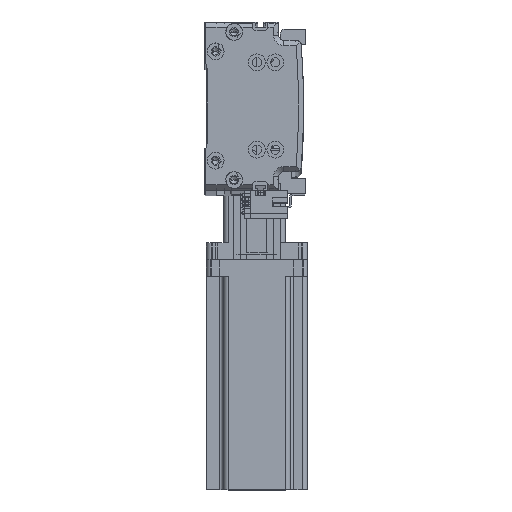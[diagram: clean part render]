
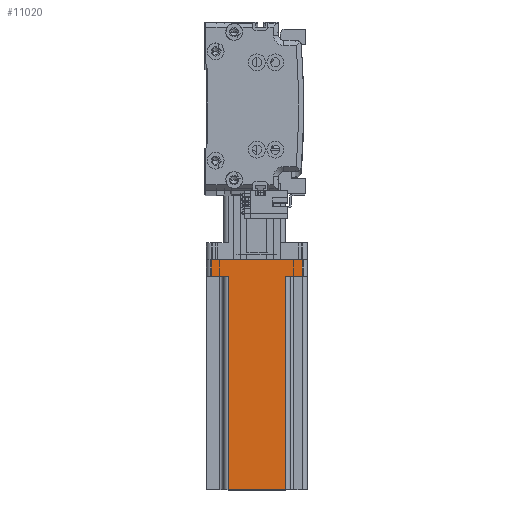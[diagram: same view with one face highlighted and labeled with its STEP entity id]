
A CAD part, top view. The second image highlights one B-rep face of the part: STEP entity #11020.
In plain terms, the highlighted planar face has unit normal (0, 0, 1) as drawn and (0, 1, 0) by its records, which use the part's own axes.
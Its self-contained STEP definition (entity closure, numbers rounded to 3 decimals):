
#1809 = CARTESIAN_POINT ( 'NONE',  ( 20., 30., 10. ) ) ;
#2123 = EDGE_CURVE ( 'NONE', #49761, #10341, #43743, .T. ) ;
#4037 = PLANE ( 'NONE',  #23274 ) ;
#4677 = FACE_OUTER_BOUND ( 'NONE', #41095, .T. ) ;
#8423 = DIRECTION ( 'NONE',  ( 0., 0., -1. ) ) ;
#8500 = CARTESIAN_POINT ( 'NONE',  ( 27., 30., 0. ) ) ;
#9599 = VECTOR ( 'NONE', #39599, 1000. ) ;
#10341 = VERTEX_POINT ( 'NONE', #57234 ) ;
#11020 = ADVANCED_FACE ( 'NONE', ( #4677 ), #4037, .F. ) ;
#11584 = CARTESIAN_POINT ( 'NONE',  ( 17., 30., 137. ) ) ;
#11677 = VECTOR ( 'NONE', #8423, 1000. ) ;
#14736 = EDGE_CURVE ( 'NONE', #43081, #59718, #30452, .T. ) ;
#15749 = ORIENTED_EDGE ( 'NONE', *, *, #58600, .T. ) ;
#17278 = CARTESIAN_POINT ( 'NONE',  ( 17., 30., 137. ) ) ;
#18395 = DIRECTION ( 'NONE',  ( 0., 0., 1. ) ) ;
#18531 = CARTESIAN_POINT ( 'NONE',  ( -17., 30., 137. ) ) ;
#18965 = LINE ( 'NONE', #43473, #43770 ) ;
#20322 = CARTESIAN_POINT ( 'NONE',  ( 30., 30., 137. ) ) ;
#23274 = AXIS2_PLACEMENT_3D ( 'NONE', #58886, #29144, #63843 ) ;
#23513 = ORIENTED_EDGE ( 'NONE', *, *, #24237, .T. ) ;
#23736 = ORIENTED_EDGE ( 'NONE', *, *, #45635, .T. ) ;
#24237 = EDGE_CURVE ( 'NONE', #49059, #54857, #60832, .T. ) ;
#24883 = LINE ( 'NONE', #28141, #11677 ) ;
#25290 = DIRECTION ( 'NONE',  ( -1., 0., 0. ) ) ;
#26048 = EDGE_CURVE ( 'NONE', #42993, #59718, #61347, .T. ) ;
#27659 = ORIENTED_EDGE ( 'NONE', *, *, #14736, .T. ) ;
#28141 = CARTESIAN_POINT ( 'NONE',  ( 27., 30., 137. ) ) ;
#28154 = CARTESIAN_POINT ( 'NONE',  ( 30., 30., 0. ) ) ;
#29144 = DIRECTION ( 'NONE',  ( 0., -1., 0. ) ) ;
#30452 = LINE ( 'NONE', #43092, #43618 ) ;
#34442 = LINE ( 'NONE', #28154, #59281 ) ;
#34982 = EDGE_CURVE ( 'NONE', #54857, #43081, #18965, .T. ) ;
#35815 = CARTESIAN_POINT ( 'NONE',  ( -27., 30., 0. ) ) ;
#38116 = DIRECTION ( 'NONE',  ( -1., 0., 0. ) ) ;
#39599 = DIRECTION ( 'NONE',  ( 0., 0., 1. ) ) ;
#39865 = ORIENTED_EDGE ( 'NONE', *, *, #44456, .T. ) ;
#41095 = EDGE_LOOP ( 'NONE', ( #50219, #27659, #60235, #23736, #42384, #39865, #15749, #23513 ) ) ;
#41248 = DIRECTION ( 'NONE',  ( -1., 0., 0. ) ) ;
#42188 = VECTOR ( 'NONE', #41248, 1000. ) ;
#42190 = CARTESIAN_POINT ( 'NONE',  ( 27., 30., 10. ) ) ;
#42384 = ORIENTED_EDGE ( 'NONE', *, *, #2123, .F. ) ;
#42993 = VERTEX_POINT ( 'NONE', #17278 ) ;
#43081 = VERTEX_POINT ( 'NONE', #57790 ) ;
#43092 = CARTESIAN_POINT ( 'NONE',  ( -17., 30., 137. ) ) ;
#43473 = CARTESIAN_POINT ( 'NONE',  ( -20., 30., 10. ) ) ;
#43618 = VECTOR ( 'NONE', #18395, 1000. ) ;
#43743 = LINE ( 'NONE', #1809, #42188 ) ;
#43770 = VECTOR ( 'NONE', #48491, 1000. ) ;
#44456 = EDGE_CURVE ( 'NONE', #49761, #48694, #24883, .T. ) ;
#45635 = EDGE_CURVE ( 'NONE', #42993, #10341, #51009, .T. ) ;
#47192 = DIRECTION ( 'NONE',  ( 0., 0., -1. ) ) ;
#48491 = DIRECTION ( 'NONE',  ( 1., 0., 0. ) ) ;
#48694 = VERTEX_POINT ( 'NONE', #8500 ) ;
#49059 = VERTEX_POINT ( 'NONE', #35815 ) ;
#49761 = VERTEX_POINT ( 'NONE', #42190 ) ;
#50219 = ORIENTED_EDGE ( 'NONE', *, *, #34982, .T. ) ;
#51009 = LINE ( 'NONE', #11584, #54126 ) ;
#54126 = VECTOR ( 'NONE', #47192, 1000. ) ;
#54857 = VERTEX_POINT ( 'NONE', #58653 ) ;
#57234 = CARTESIAN_POINT ( 'NONE',  ( 17., 30., 10. ) ) ;
#57790 = CARTESIAN_POINT ( 'NONE',  ( -17., 30., 10. ) ) ;
#58600 = EDGE_CURVE ( 'NONE', #48694, #49059, #34442, .T. ) ;
#58653 = CARTESIAN_POINT ( 'NONE',  ( -27., 30., 10. ) ) ;
#58886 = CARTESIAN_POINT ( 'NONE',  ( 30., 30., 137. ) ) ;
#59281 = VECTOR ( 'NONE', #38116, 1000. ) ;
#59718 = VERTEX_POINT ( 'NONE', #18531 ) ;
#59778 = VECTOR ( 'NONE', #25290, 1000. ) ;
#60235 = ORIENTED_EDGE ( 'NONE', *, *, #26048, .F. ) ;
#60832 = LINE ( 'NONE', #64312, #9599 ) ;
#61347 = LINE ( 'NONE', #20322, #59778 ) ;
#63843 = DIRECTION ( 'NONE',  ( 1., 0., 0. ) ) ;
#64312 = CARTESIAN_POINT ( 'NONE',  ( -27., 30., 137. ) ) ;
